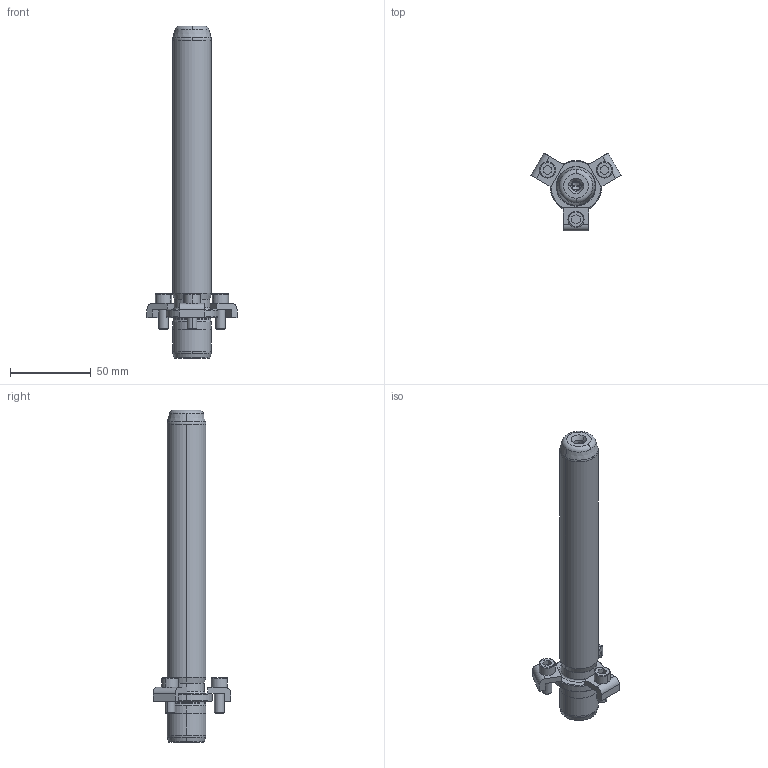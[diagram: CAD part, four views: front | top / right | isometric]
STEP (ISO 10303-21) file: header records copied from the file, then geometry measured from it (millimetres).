
FILE_DESCRIPTION((''),'2;1');
FILE_NAME('P21_024_180.stp','2008-12-23T09:28:16',(''),(''),'Mechanical Desktop 2009','Mechanical Desktop 2009',', , ');
FILE_SCHEMA(('CONFIG_CONTROL_DESIGN'));
Length unit declared in the file: millimetre
Products named in the file (2): Product; blmdl1
Assembly tree (1 placements, depth 2):
  Product
    blmdl1
Bounding box: 55.58 x 48.13 x 205 mm (x, y, z)
Volume: 97394.1 mm3; surface area: 22112.6 mm2
Topology: 7 solids, 7 shells, 163 faces, 417 edges, 269 vertices
Faces by surface type: plane 59, cylinder 44, cone 32, torus 14, bspline 14
Entity records: 5679 total; most frequent: CARTESIAN_POINT 1511, DIRECTION 914, ORIENTED_EDGE 826, EDGE_CURVE 413, AXIS2_PLACEMENT_3D 362, VERTEX_POINT 269, CIRCLE 211, VECTOR 190
